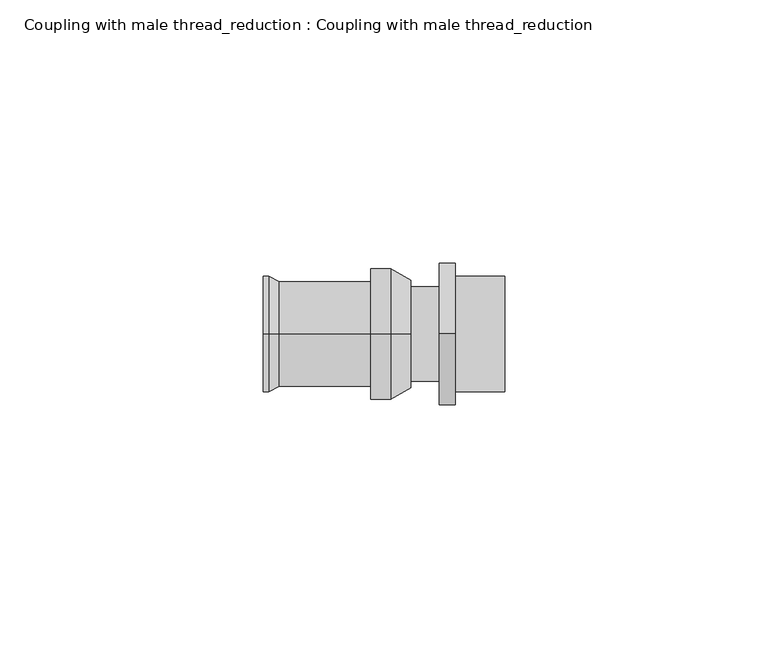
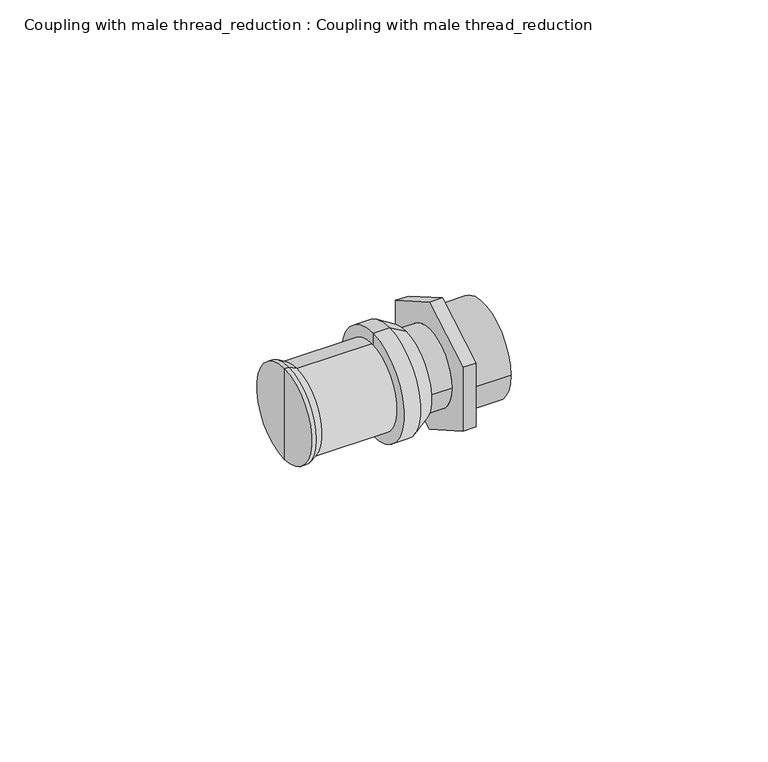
"""IFC4 building model written with IfcOpenShell, lengths in millimetres: pipe fitting geometry, Coupling with male thread_reduction : Coupling with male thread_reduction."""

from ifc_helpers import new_model, si_unit, frame, origin, place, context, project, spatial, polyline, circle_curve, source, transform, mapped, element, save
from ifc_brep_helpers import plane_surface, cylinder_surface, revolved_surface, advanced_brep


def coupling_with_male_thread_reduction_coupling_with_male_f1dbdc30(model_context):
    return source(origin(), model_context, "Body", "AdvancedBrep", [
        advanced_brep(
        [(1.0, 0.0, 0.0), (1.0, 0.0, -10.306069), (1.0, 0.0, 10.306069), (-6.6, 0.0, 12.5), (-6.6, 0.0, -12.5), (-6.6, 0.0, 0.0), (-2.8, 0.0, 12.5), (-2.8, 0.0, -12.5)],
        [
            (0, 1),
            (1, 2, circle_curve(frame((1.0, 0.0, 0.0), z_axis=(1.0, 0.0, 0.0), x_axis=(0.0, 0.0, -1.0)), 10.306069)),
            (2, 0),
            (2, 1, circle_curve(frame((1.0, 0.0, 0.0), z_axis=(1.0, 0.0, 0.0), x_axis=(0.0, 0.0, -1.0)), 10.306069)),
            (3, 4, circle_curve(frame((-6.6, 0.0, 0.0), z_axis=(-1.0, 0.0, 0.0), x_axis=(0.0, 0.0, -1.0)), 12.5)),
            (4, 5),
            (5, 3),
            (4, 3, circle_curve(frame((-6.6, 0.0, 0.0), z_axis=(-1.0, 0.0, 0.0), x_axis=(0.0, 0.0, -1.0)), 12.5)),
            (6, 7, circle_curve(frame((-2.8, 0.0, 0.0), z_axis=(-1.0, 0.0, 0.0), x_axis=(0.0, 0.0, -1.0)), 12.5)),
            (7, 4),
            (3, 6),
            (7, 6, circle_curve(frame((-2.8, 0.0, 0.0), z_axis=(-1.0, 0.0, 0.0), x_axis=(0.0, 0.0, -1.0)), 12.5)),
            (1, 7),
            (6, 2),
        ],
        [
            plane_surface(frame((1.0, 0.0, 0.0), z_axis=(1.0, 0.0, 0.0), x_axis=(0.0, 0.0, -1.0))),
            plane_surface(frame((-6.6, 0.0, 0.0), z_axis=(-1.0, 0.0, 0.0), x_axis=(0.0, 0.0, -1.0))),
            cylinder_surface(frame((0.0, 0.0, 0.0), z_axis=(1.0, 0.0, 0.0), x_axis=(0.0, 0.0, -1.0)), 12.5),
            revolved_surface(polyline([(-2.8, 0.0, -12.5), (1.0, 0.0, -10.306069)]), (0.0, 0.0, 0.0), (1.0, 0.0, 0.0)),
        ],
        [
            (0, [[1, 2, 3]]),
            (0, [[-3, 4, -1]]),
            (1, [[5, 6, 7]]),
            (1, [[8, -7, -6]]),
            (2, [[9, 10, -5, 11]]),
            (2, [[12, -11, -8, -10]]),
            (3, [[-2, 13, -9, 14]]),
            (3, [[-4, -14, -12, -13]]),
        ],
    ),
        advanced_brep(
        [(-6.6, 0.0, 10.0), (-6.6, 0.0, -10.0), (-24.0, 0.0, -10.0), (-24.0, 0.0, 10.0), (-27.0, 0.0, 11.0), (-27.0, 0.0, -11.0), (-27.0, 0.0, 0.0), (-6.6, 0.0, 0.0), (-26.0, 0.0, 11.0), (-26.0, 0.0, -11.0)],
        [
            (0, 1, circle_curve(frame((-6.6, 0.0, 0.0), z_axis=(-1.0, 0.0, 0.0), x_axis=(0.0, 0.0, -1.0)), 10.0)),
            (1, 2),
            (2, 3, circle_curve(frame((-24.0, 0.0, 0.0), z_axis=(1.0, 0.0, 0.0), x_axis=(0.0, 0.0, -1.0)), 10.0)),
            (3, 0),
            (1, 0, circle_curve(frame((-6.6, 0.0, 0.0), z_axis=(-1.0, 0.0, 0.0), x_axis=(0.0, 0.0, -1.0)), 10.0)),
            (3, 2, circle_curve(frame((-24.0, 0.0, 0.0), z_axis=(1.0, 0.0, 0.0), x_axis=(0.0, 0.0, -1.0)), 10.0)),
            (4, 5, circle_curve(frame((-27.0, 0.0, 0.0), z_axis=(-1.0, 0.0, 0.0), x_axis=(0.0, 0.0, -1.0)), 11.0)),
            (5, 6),
            (6, 4),
            (5, 4, circle_curve(frame((-27.0, 0.0, 0.0), z_axis=(-1.0, 0.0, 0.0), x_axis=(0.0, 0.0, -1.0)), 11.0)),
            (7, 1),
            (0, 7),
            (8, 9, circle_curve(frame((-26.0, 0.0, 0.0), z_axis=(-1.0, 0.0, 0.0), x_axis=(0.0, 0.0, -1.0)), 11.0)),
            (9, 5),
            (4, 8),
            (9, 8, circle_curve(frame((-26.0, 0.0, 0.0), z_axis=(-1.0, 0.0, 0.0), x_axis=(0.0, 0.0, -1.0)), 11.0)),
            (2, 9),
            (8, 3),
        ],
        [
            cylinder_surface(frame((1911.8038476, 0.0, 0.0), z_axis=(1.0, 0.0, 0.0), x_axis=(0.0, 0.0, -1.0)), 10.0),
            plane_surface(frame((-27.0, 0.0, 0.0), z_axis=(-1.0, 0.0, 0.0), x_axis=(0.0, 0.0, -1.0))),
            plane_surface(frame((-6.6, 0.0, 0.0), z_axis=(1.0, 0.0, 0.0), x_axis=(0.0, 0.0, -1.0))),
            cylinder_surface(frame((1911.8038476, 0.0, 0.0), z_axis=(1.0, 0.0, 0.0), x_axis=(0.0, 0.0, -1.0)), 11.0),
            revolved_surface(polyline([(-26.0, 0.0, -11.0), (-24.0, 0.0, -10.0)]), (1911.8038476, 0.0, 0.0), (1.0, 0.0, 0.0)),
        ],
        [
            (0, [[1, 2, 3, 4]]),
            (0, [[5, -4, 6, -2]]),
            (1, [[7, 8, 9]]),
            (1, [[10, -9, -8]]),
            (2, [[11, -1, 12]]),
            (2, [[-12, -5, -11]]),
            (3, [[13, 14, -7, 15]]),
            (3, [[16, -15, -10, -14]]),
            (4, [[-3, 17, -13, 18]]),
            (4, [[-6, -18, -16, -17]]),
        ],
    ),
        advanced_brep(
        [(18.8426499, 11.0, 0.0), (18.8426499, -11.0, 0.0), (9.4213249, -11.0, 0.0), (9.4213249, 11.0, 0.0), (18.8426499, 0.0, 0.0), (-1e-07, 9.0, 0.0), (-1e-07, -9.0, 0.0), (-1e-07, 0.0, 0.0), (6.4213249, 9.0, 0.0), (6.4213249, -9.0, 0.0), (6.4213249, 13.4233938, 7.75), (6.4213249, 13.4233938, -7.75), (6.4213249, 0.0, -15.5), (6.4213249, -13.4233938, -7.75), (6.4213249, -13.4233938, 7.75), (6.4213249, 0.0, 15.5), (9.4213249, 13.4233938, 7.75), (9.4213249, 0.0, 15.5), (9.4213249, -13.4233938, 7.75), (9.4213249, -13.4233938, -7.75), (9.4213249, 0.0, -15.5), (9.4213249, 13.4233938, -7.75)],
        [
            (0, 1, circle_curve(frame((18.8426499, 0.0, 0.0), z_axis=(-1.0, 0.0, 0.0), x_axis=(0.0, -1.0, 0.0)), 11.0)),
            (1, 2),
            (2, 3, circle_curve(frame((9.4213249, 0.0, 0.0), z_axis=(1.0, 0.0, 0.0), x_axis=(0.0, -1.0, 0.0)), 11.0)),
            (3, 0),
            (1, 0, circle_curve(frame((18.8426499, 0.0, 0.0), z_axis=(-1.0, 0.0, 0.0), x_axis=(0.0, -1.0, 0.0)), 11.0)),
            (3, 2, circle_curve(frame((9.4213249, 0.0, 0.0), z_axis=(1.0, 0.0, 0.0), x_axis=(0.0, -1.0, 0.0)), 11.0)),
            (0, 4),
            (4, 1),
            (5, 6, circle_curve(frame((-1e-07, 0.0, 0.0), z_axis=(-1.0, 0.0, 0.0), x_axis=(0.0, -1.0, 0.0)), 9.0)),
            (6, 7),
            (7, 5),
            (6, 5, circle_curve(frame((-1e-07, 0.0, 0.0), z_axis=(-1.0, 0.0, 0.0), x_axis=(0.0, -1.0, 0.0)), 9.0)),
            (5, 8),
            (8, 9, circle_curve(frame((6.4213249, 0.0, 0.0), z_axis=(-1.0, 0.0, 0.0), x_axis=(0.0, -1.0, 0.0)), 9.0)),
            (9, 6),
            (9, 8, circle_curve(frame((6.4213249, 0.0, 0.0), z_axis=(-1.0, 0.0, 0.0), x_axis=(0.0, -1.0, 0.0)), 9.0)),
            (10, 11),
            (11, 12),
            (12, 13),
            (13, 14),
            (14, 15),
            (15, 10),
            (16, 17),
            (17, 18),
            (18, 19),
            (19, 20),
            (20, 21),
            (21, 16),
            (10, 16),
            (21, 11),
            (20, 12),
            (19, 13),
            (18, 14),
            (17, 15),
        ],
        [
            cylinder_surface(frame((-3e-07, 0.0, 0.0), z_axis=(1.0, 0.0, 0.0), x_axis=(0.0, -1.0, 0.0)), 11.0),
            plane_surface(frame((18.8426499, 0.0, 0.0), z_axis=(1.0, 0.0, 0.0), x_axis=(0.0, -1.0, 0.0))),
            plane_surface(frame((-1e-07, 0.0, 0.0), z_axis=(-1.0, 0.0, 0.0), x_axis=(0.0, -1.0, 0.0))),
            cylinder_surface(frame((-3e-07, 0.0, 0.0), z_axis=(1.0, 0.0, 0.0), x_axis=(0.0, -1.0, 0.0)), 9.0),
            plane_surface(frame((6.4213249, 13.4233938, 7.75), z_axis=(-1.0, 0.0, 0.0), x_axis=(0.0, 0.0, -1.0))),
            plane_surface(frame((9.4213249, 13.4233938, 7.75), z_axis=(1.0, 0.0, 0.0), x_axis=(0.0, 0.0, 1.0))),
            plane_surface(frame((6.4213249, 13.4233938, 7.75), z_axis=(0.0, 1.0, 0.0), x_axis=(1.0, 0.0, 0.0))),
            plane_surface(frame((6.4213249, 13.4233938, -7.75), z_axis=(0.0, 0.5000000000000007, -0.8660254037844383), x_axis=(1.0, 0.0, 0.0))),
            plane_surface(frame((6.4213249, 0.0, -15.5), z_axis=(0.0, -0.5000000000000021, -0.8660254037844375), x_axis=(1.0, 0.0, 0.0))),
            plane_surface(frame((6.4213249, -13.4233938, -7.75), z_axis=(0.0, -1.0, 0.0), x_axis=(1.0, 0.0, 0.0))),
            plane_surface(frame((6.4213249, -13.4233938, 7.75), z_axis=(0.0, -0.5000000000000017, 0.8660254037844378), x_axis=(1.0, 0.0, 0.0))),
            plane_surface(frame((6.4213249, 0.0, 15.5), z_axis=(0.0, 0.500000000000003, 0.8660254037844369), x_axis=(1.0, 0.0, 0.0))),
        ],
        [
            (0, [[1, 2, 3, 4]]),
            (0, [[-2, 5, -4, 6]]),
            (1, [[-1, 7, 8]]),
            (1, [[-5, -8, -7]]),
            (2, [[9, 10, 11]]),
            (2, [[-10, 12, -11]]),
            (3, [[-9, 13, 14, 15]]),
            (3, [[-12, -15, 16, -13]]),
            (4, [[17, 18, 19, 20, 21, 22], [-14, -16]]),
            (5, [[23, 24, 25, 26, 27, 28], [-3, -6]]),
            (6, [[-17, 29, -28, 30]]),
            (7, [[-18, -30, -27, 31]]),
            (8, [[-19, -31, -26, 32]]),
            (9, [[-20, -32, -25, 33]]),
            (10, [[-21, -33, -24, 34]]),
            (11, [[-22, -34, -23, -29]]),
        ],
    ),
    ])


if __name__ == "__main__":
    model = new_model("IFC4")
    model_context = context("Model", 3, world=origin())
    ifc_project = project(units=[si_unit("LENGTHUNIT", "METRE", prefix="MILLI")], contexts=[model_context])
    site = spatial("IfcSite", under=ifc_project)
    building = spatial("IfcBuilding", under=site)
    placement = place(None, origin())
    coupling_with_male_thread_reduction_coupling_with_male_shape = coupling_with_male_thread_reduction_coupling_with_male_f1dbdc30(model_context)
    element("IfcPipeFitting", 1, ObjectType="Coupling with male thread_reduction : Coupling with male thread_reduction", at=placement, inside=building, context=model_context, shape_type="MappedRepresentation", body=[
        mapped(coupling_with_male_thread_reduction_coupling_with_male_shape, transform((0.0, 0.0, 0.0), x_axis=(1.0, 0.0, 0.0), y_axis=(0.0, 1.0, 0.0), z_axis=(0.0, 0.0, 1.0))),
    ])
    save(model, "model.ifc")
